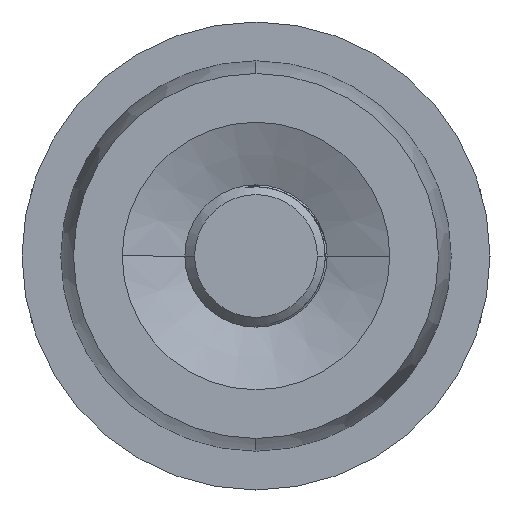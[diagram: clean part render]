
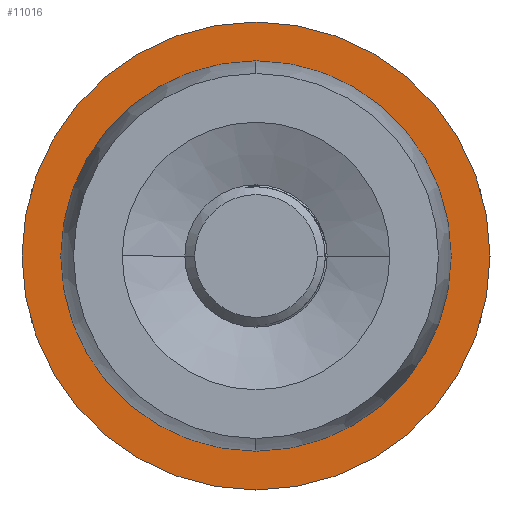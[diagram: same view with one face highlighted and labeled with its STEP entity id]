
A CAD part, left-side view. The second image highlights one B-rep face of the part: STEP entity #11016.
In plain terms, the highlighted planar face has unit normal (-1, 0, 0).
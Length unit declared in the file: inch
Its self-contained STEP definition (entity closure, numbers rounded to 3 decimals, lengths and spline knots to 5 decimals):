
#267 = PLANE ( 'NONE',  #818 ) ;
#413 = ORIENTED_EDGE ( 'NONE', *, *, #7818, .F. ) ;
#818 = AXIS2_PLACEMENT_3D ( 'NONE', #7005, #15865, #8324 ) ;
#948 = DIRECTION ( 'NONE',  ( 0., 0., 1. ) ) ;
#1353 = ORIENTED_EDGE ( 'NONE', *, *, #7424, .T. ) ;
#1416 = CARTESIAN_POINT ( 'NONE',  ( -0.75, 0., 0. ) ) ;
#1588 = CIRCLE ( 'NONE', #3320, 0.4375 ) ;
#1687 = CARTESIAN_POINT ( 'NONE',  ( -0.75, 0., 0. ) ) ;
#1733 = CIRCLE ( 'NONE', #3399, 0.365 ) ;
#2056 = CARTESIAN_POINT ( 'NONE',  ( -0.75, 0., -0.4375 ) ) ;
#2184 = EDGE_LOOP ( 'NONE', ( #6943, #1353 ) ) ;
#2748 = DIRECTION ( 'NONE',  ( 0., 0., 1. ) ) ;
#3025 = DIRECTION ( 'NONE',  ( 0., 0., 1. ) ) ;
#3140 = DIRECTION ( 'NONE',  ( -1., 0., 0. ) ) ;
#3300 = FACE_BOUND ( 'NONE', #7587, .T. ) ;
#3320 = AXIS2_PLACEMENT_3D ( 'NONE', #11067, #3140, #12376 ) ;
#3399 = AXIS2_PLACEMENT_3D ( 'NONE', #1687, #10954, #3025 ) ;
#4833 = AXIS2_PLACEMENT_3D ( 'NONE', #1416, #10693, #2748 ) ;
#4941 = AXIS2_PLACEMENT_3D ( 'NONE', #16399, #8921, #948 ) ;
#4986 = CIRCLE ( 'NONE', #4833, 0.365 ) ;
#6925 = VERTEX_POINT ( 'NONE', #15680 ) ;
#6943 = ORIENTED_EDGE ( 'NONE', *, *, #10635, .T. ) ;
#7005 = CARTESIAN_POINT ( 'NONE',  ( -0.75, 0., -0.365 ) ) ;
#7424 = EDGE_CURVE ( 'NONE', #11823, #16570, #8507, .T. ) ;
#7587 = EDGE_LOOP ( 'NONE', ( #14778, #413 ) ) ;
#7664 = CARTESIAN_POINT ( 'NONE',  ( -0.75, 0., -0.365 ) ) ;
#7818 = EDGE_CURVE ( 'NONE', #14026, #6925, #4986, .T. ) ;
#8324 = DIRECTION ( 'NONE',  ( 0., 0., 1. ) ) ;
#8507 = CIRCLE ( 'NONE', #4941, 0.4375 ) ;
#8921 = DIRECTION ( 'NONE',  ( -1., 0., 0. ) ) ;
#10564 = EDGE_CURVE ( 'NONE', #6925, #14026, #1733, .T. ) ;
#10635 = EDGE_CURVE ( 'NONE', #16570, #11823, #1588, .T. ) ;
#10693 = DIRECTION ( 'NONE',  ( -1., 0., 0. ) ) ;
#10954 = DIRECTION ( 'NONE',  ( -1., 0., 0. ) ) ;
#11016 = ADVANCED_FACE ( 'NONE', ( #3300, #11429 ), #267, .T. ) ;
#11067 = CARTESIAN_POINT ( 'NONE',  ( -0.75, 0., 0. ) ) ;
#11429 = FACE_OUTER_BOUND ( 'NONE', #2184, .T. ) ;
#11823 = VERTEX_POINT ( 'NONE', #2056 ) ;
#12376 = DIRECTION ( 'NONE',  ( 0., 0., 1. ) ) ;
#14026 = VERTEX_POINT ( 'NONE', #7664 ) ;
#14778 = ORIENTED_EDGE ( 'NONE', *, *, #10564, .F. ) ;
#15680 = CARTESIAN_POINT ( 'NONE',  ( -0.75, 0., 0.365 ) ) ;
#15865 = DIRECTION ( 'NONE',  ( -1., 0., 0. ) ) ;
#15963 = CARTESIAN_POINT ( 'NONE',  ( -0.75, 0., 0.4375 ) ) ;
#16399 = CARTESIAN_POINT ( 'NONE',  ( -0.75, 0., 0. ) ) ;
#16570 = VERTEX_POINT ( 'NONE', #15963 ) ;
